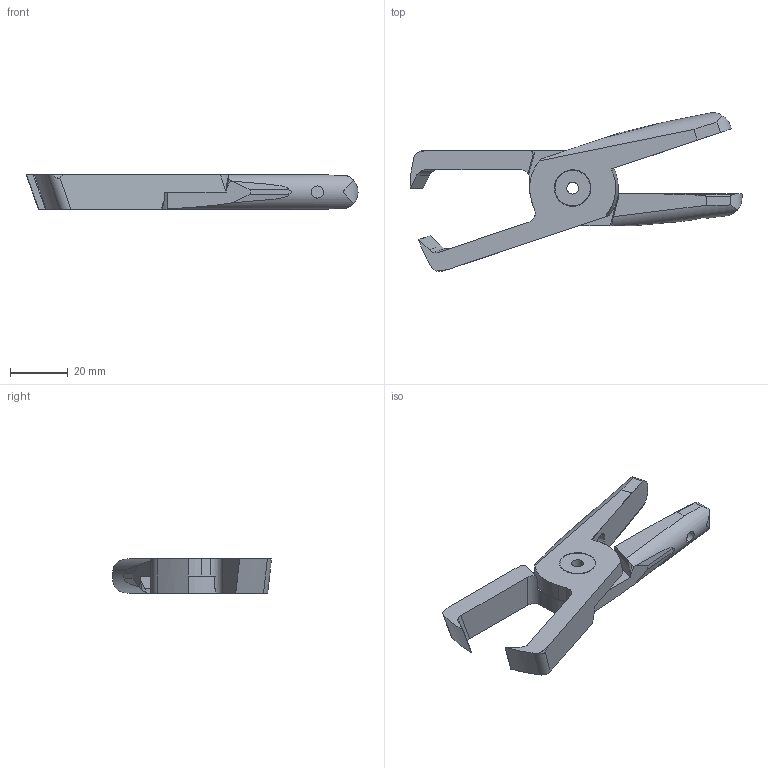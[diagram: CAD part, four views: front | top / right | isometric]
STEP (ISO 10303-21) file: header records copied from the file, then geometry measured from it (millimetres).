
FILE_DESCRIPTION((''),'2;1');
FILE_NAME('GPT-20-AELA56.stp','2007-08-09T12:49:14',(''),(''),'Mechanical Desktop 2005','Mechanical Desktop 2005',', , ');
FILE_SCHEMA(('CONFIG_CONTROL_DESIGN'));
Length unit declared in the file: inch
Products named in the file (4): GPT-20-AELA56; 20AELA56S; 20AELA56O; 9PRIVIT
Assembly tree (3 placements, depth 2):
  GPT-20-AELA56
    20AELA56S
    20AELA56O
    9PRIVIT
Bounding box: 114.54 x 54.69 x 11.91 mm (x, y, z)
Volume: 22672.3 mm3; surface area: 11863.6 mm2
Topology: 3 solids, 3 shells, 135 faces, 362 edges, 232 vertices
Faces by surface type: cylinder 58, plane 47, cone 22, torus 6, bspline 2
Entity records: 4693 total; most frequent: CARTESIAN_POINT 1163, DIRECTION 724, ORIENTED_EDGE 716, EDGE_CURVE 358, AXIS2_PLACEMENT_3D 277, VERTEX_POINT 232, VECTOR 170, LINE 170
